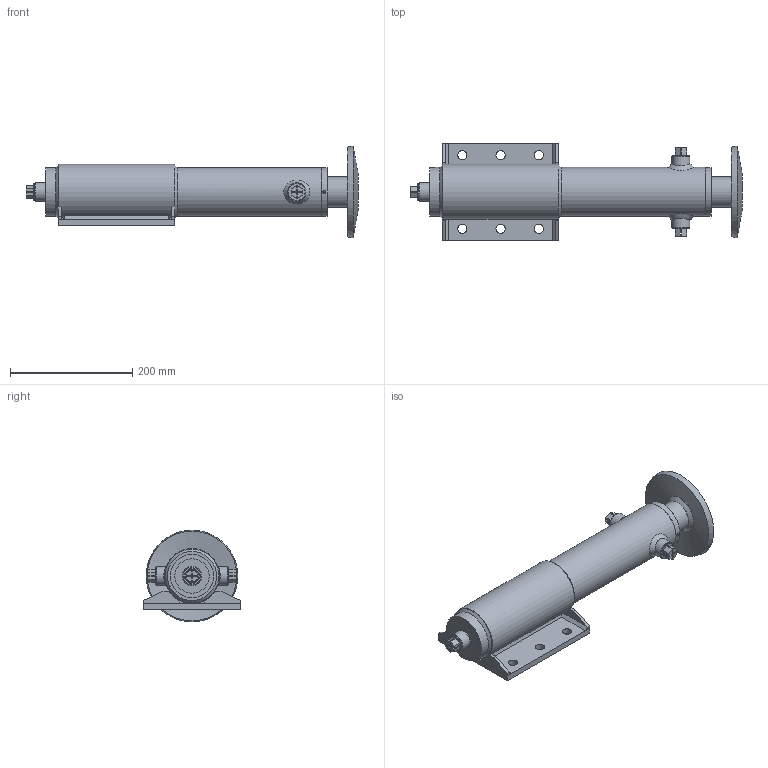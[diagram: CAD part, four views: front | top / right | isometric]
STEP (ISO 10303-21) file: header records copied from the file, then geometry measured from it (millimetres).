
FILE_DESCRIPTION( ( 'Unknown' ), '1' );
FILE_NAME( 'E:/LIBRERIA_3d/CILINDRI/HMS/HMS00700500300.stp', 'Unknown', ( 'Unknown' ), ( 'Unknown' ), 'PSStep 17.0.49', 'Unknown', ' ' );
FILE_SCHEMA( ( 'AUTOMOTIVE_DESIGN { 1 0 10303 214 1 1 1 1 }' ) );
Length unit declared in the file: millimetre
Products named in the file (43): CG08007050; CHMSASP070; Saldatura d'angolo 1-oa5; Protrusione 1-oa6; CHMSTUB070; CHMSPR0700; CHMSRF0700; CTFV0702420; AVG3005100; STLS0700800300-oa10; Saldatura d'angolo 1-oa7; Saldatura d'angolo 2-oa8; MAT_PRIMA_TUBO_FT08007000-oa9; CBSC220800; Assem1; Saldatura con preparazione 1-oa0; Saldatura con preparazione 2-oa1; Saldatura d'angolo 2-oa2; Saldatura d'angolo 3-oa3; Saldatura d'angolo 4-oa4; CHMSCFI070; CHMSPTB070; APSEP43527; SBLS0500700300
Assembly tree (30 placements, depth 3):
  Saldatura d'angolo 1-oa5
  Saldatura d'angolo 1-oa5
  Saldatura d'angolo 1-oa5
  Saldatura d'angolo 1-oa5
  Saldatura d'angolo 1-oa5
Bounding box: 542.5 x 160 x 150 mm (x, y, z)
Volume: 2410743 mm3; surface area: 669482.7 mm2
Topology: 44 solids, 44 shells, 433 faces, 925 edges, 603 vertices
Faces by surface type: plane 225, cylinder 102, cone 59, torus 35, bspline 12
Full cylindrical faces by diameter (mm): 4.134 x1, 4.25 x2, 5 x5, 6 x2, 7.5 x3, 12 x1, 15 x6, 18.631 x4, 20 x1, 20.955 x3, 21 x1, 21.835 x1, 24 x2, 25 x3, 27.2 x3, 29.5 x1, 30 x7, 42 x1, 50 x9, 52 x1, 53 x1, 58.6 x1, 60 x1, 64.18 x2, 65 x1, 68.34 x2, 70 x1, 70.3 x1, 70.5 x1, 70.6 x1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
Entity records: 14474 total; most frequent: CARTESIAN_POINT 4540, DIRECTION 1436, ORIENTED_EDGE 994, AXIS2_PLACEMENT_3D 621, EDGE_LOOP 586, EDGE_CURVE 497, FACE_OUTER_BOUND 464, VERTEX_POINT 415
